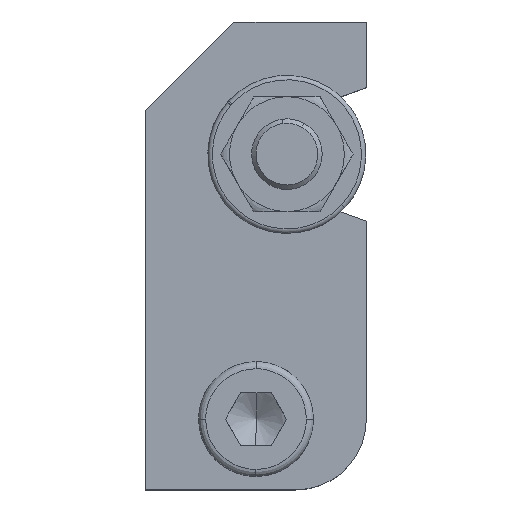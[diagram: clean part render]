
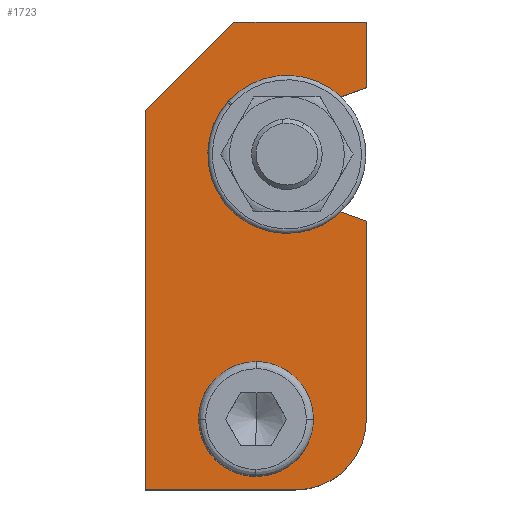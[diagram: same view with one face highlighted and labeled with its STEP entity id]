
A CAD part, top view. The second image highlights one B-rep face of the part: STEP entity #1723.
In plain terms, the highlighted planar face has unit normal (0, 0, 1).
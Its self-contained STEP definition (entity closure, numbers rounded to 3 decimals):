
#1393=CARTESIAN_POINT('Vertex',(-3.642,1.99,12.)) ;
#1407=CARTESIAN_POINT('Vertex',(3.642,-1.99,12.)) ;
#1410=CARTESIAN_POINT('Axis2P3D Location',(0.,0.,12.)) ;
#1432=CARTESIAN_POINT('Axis2P3D Location',(0.,0.,12.)) ;
#1584=CARTESIAN_POINT('Axis2P3D Location',(0.,0.,12.)) ;
#1589=CARTESIAN_POINT('Line Origine',(-12.5,13.5,12.)) ;
#1593=CARTESIAN_POINT('Vertex',(-12.5,35.,12.)) ;
#1595=CARTESIAN_POINT('Vertex',(-12.5,-8.,12.)) ;
#1598=CARTESIAN_POINT('Line Origine',(-4.,-8.,12.)) ;
#1602=CARTESIAN_POINT('Vertex',(4.5,-8.,12.)) ;
#1605=CARTESIAN_POINT('Axis2P3D Location',(4.5,0.,12.)) ;
#1609=CARTESIAN_POINT('Vertex',(12.5,0.,12.)) ;
#1612=CARTESIAN_POINT('Line Origine',(12.5,11.215,12.)) ;
#1616=CARTESIAN_POINT('Vertex',(12.5,22.43,12.)) ;
#1619=CARTESIAN_POINT('Line Origine',(10.,23.34,12.)) ;
#1623=CARTESIAN_POINT('Vertex',(7.5,24.25,12.)) ;
#1626=CARTESIAN_POINT('Line Origine',(5.5,24.25,12.)) ;
#1630=CARTESIAN_POINT('Vertex',(3.5,24.25,12.)) ;
#1634=CARTESIAN_POINT('Control Point',(3.5,24.25,12.)) ;
#1635=CARTESIAN_POINT('Control Point',(2.913,24.25,12.)) ;
#1636=CARTESIAN_POINT('Control Point',(2.325,24.325,12.)) ;
#1637=CARTESIAN_POINT('Control Point',(1.751,24.475,12.)) ;
#1638=CARTESIAN_POINT('Control Point',(0.653,24.918,12.)) ;
#1639=CARTESIAN_POINT('Control Point',(-0.299,25.623,12.)) ;
#1640=CARTESIAN_POINT('Control Point',(-0.727,26.035,12.)) ;
#1641=CARTESIAN_POINT('Control Point',(-1.468,26.959,12.)) ;
#1642=CARTESIAN_POINT('Control Point',(-1.953,28.039,12.)) ;
#1643=CARTESIAN_POINT('Control Point',(-2.126,28.607,12.)) ;
#1644=CARTESIAN_POINT('Control Point',(-2.321,29.776,12.)) ;
#1645=CARTESIAN_POINT('Control Point',(-2.216,30.955,12.)) ;
#1646=CARTESIAN_POINT('Control Point',(-2.088,31.535,12.)) ;
#1647=CARTESIAN_POINT('Control Point',(-1.877,32.123,12.)) ;
#1648=CARTESIAN_POINT('Control Point',(-1.591,32.672,12.)) ;
#1649=CARTESIAN_POINT('Control Point',(-1.577,32.7,12.)) ;
#1650=CARTESIAN_POINT('Control Point',(-1.561,32.729,12.)) ;
#1651=CARTESIAN_POINT('Control Point',(-1.546,32.757,12.)) ;
#1652=CARTESIAN_POINT('Vertex',(-1.546,32.757,12.)) ;
#1656=CARTESIAN_POINT('Control Point',(-1.546,32.757,12.)) ;
#1657=CARTESIAN_POINT('Control Point',(-1.265,33.272,12.)) ;
#1658=CARTESIAN_POINT('Control Point',(-0.917,33.752,12.)) ;
#1659=CARTESIAN_POINT('Control Point',(-0.51,34.184,12.)) ;
#1660=CARTESIAN_POINT('Control Point',(0.406,34.935,12.)) ;
#1661=CARTESIAN_POINT('Control Point',(1.481,35.432,12.)) ;
#1662=CARTESIAN_POINT('Control Point',(2.047,35.61,12.)) ;
#1663=CARTESIAN_POINT('Control Point',(2.686,35.724,12.)) ;
#1664=CARTESIAN_POINT('Control Point',(3.33,35.748,12.)) ;
#1665=CARTESIAN_POINT('Control Point',(3.387,35.749,12.)) ;
#1666=CARTESIAN_POINT('Control Point',(3.443,35.75,12.)) ;
#1667=CARTESIAN_POINT('Control Point',(3.5,35.75,12.)) ;
#1668=CARTESIAN_POINT('Vertex',(3.5,35.75,12.)) ;
#1671=CARTESIAN_POINT('Line Origine',(5.5,35.75,12.)) ;
#1675=CARTESIAN_POINT('Vertex',(7.5,35.75,12.)) ;
#1678=CARTESIAN_POINT('Line Origine',(10.,36.66,12.)) ;
#1682=CARTESIAN_POINT('Vertex',(12.5,37.57,12.)) ;
#1685=CARTESIAN_POINT('Line Origine',(12.5,41.285,12.)) ;
#1689=CARTESIAN_POINT('Vertex',(12.5,45.,12.)) ;
#1692=CARTESIAN_POINT('Line Origine',(5.,45.,12.)) ;
#1696=CARTESIAN_POINT('Vertex',(-2.5,45.,12.)) ;
#1699=CARTESIAN_POINT('Line Origine',(-7.5,40.,12.)) ;
#1411=DIRECTION('Axis2P3D Direction',(0.,0.,-1.)) ;
#1433=DIRECTION('Axis2P3D Direction',(0.,-0.,-1.)) ;
#1585=DIRECTION('Axis2P3D Direction',(0.,0.,1.)) ;
#1586=DIRECTION('Axis2P3D XDirection',(1.,0.,0.)) ;
#1590=DIRECTION('Vector Direction',(0.,1.,0.)) ;
#1599=DIRECTION('Vector Direction',(-1.,0.,0.)) ;
#1606=DIRECTION('Axis2P3D Direction',(0.,0.,1.)) ;
#1613=DIRECTION('Vector Direction',(0.,-1.,0.)) ;
#1620=DIRECTION('Vector Direction',(0.94,-0.342,0.)) ;
#1627=DIRECTION('Vector Direction',(-1.,0.,0.)) ;
#1672=DIRECTION('Vector Direction',(1.,0.,0.)) ;
#1679=DIRECTION('Vector Direction',(0.94,0.342,0.)) ;
#1686=DIRECTION('Vector Direction',(0.,-1.,0.)) ;
#1693=DIRECTION('Vector Direction',(1.,0.,0.)) ;
#1700=DIRECTION('Vector Direction',(0.707,0.707,0.)) ;
#1412=AXIS2_PLACEMENT_3D('Circle Axis2P3D',#1410,#1411,$) ;
#1434=AXIS2_PLACEMENT_3D('Circle Axis2P3D',#1432,#1433,$) ;
#1587=AXIS2_PLACEMENT_3D('Plane Axis2P3D',#1584,#1585,#1586) ;
#1607=AXIS2_PLACEMENT_3D('Circle Axis2P3D',#1605,#1606,$) ;
#1705=ORIENTED_EDGE('',*,*,#1597,.T.) ;
#1706=ORIENTED_EDGE('',*,*,#1604,.T.) ;
#1707=ORIENTED_EDGE('',*,*,#1611,.F.) ;
#1708=ORIENTED_EDGE('',*,*,#1618,.T.) ;
#1709=ORIENTED_EDGE('',*,*,#1625,.F.) ;
#1710=ORIENTED_EDGE('',*,*,#1632,.F.) ;
#1711=ORIENTED_EDGE('',*,*,#1654,.F.) ;
#1712=ORIENTED_EDGE('',*,*,#1670,.F.) ;
#1713=ORIENTED_EDGE('',*,*,#1677,.F.) ;
#1714=ORIENTED_EDGE('',*,*,#1684,.F.) ;
#1715=ORIENTED_EDGE('',*,*,#1691,.T.) ;
#1716=ORIENTED_EDGE('',*,*,#1698,.T.) ;
#1717=ORIENTED_EDGE('',*,*,#1703,.F.) ;
#1720=ORIENTED_EDGE('',*,*,#1436,.F.) ;
#1721=ORIENTED_EDGE('',*,*,#1414,.F.) ;
#1722=FACE_BOUND('',#1719,.T.) ;
#1591=VECTOR('Line Direction',#1590,1.) ;
#1600=VECTOR('Line Direction',#1599,1.) ;
#1614=VECTOR('Line Direction',#1613,1.) ;
#1621=VECTOR('Line Direction',#1620,1.) ;
#1628=VECTOR('Line Direction',#1627,1.) ;
#1673=VECTOR('Line Direction',#1672,1.) ;
#1680=VECTOR('Line Direction',#1679,1.) ;
#1687=VECTOR('Line Direction',#1686,1.) ;
#1694=VECTOR('Line Direction',#1693,1.) ;
#1701=VECTOR('Line Direction',#1700,1.) ;
#1723=ADVANCED_FACE('PartBody',(#1718,#1722),#1588,.T.) ;
#1633=B_SPLINE_CURVE_WITH_KNOTS('',5,(#1634,#1635,#1636,#1637,#1638,#1639,#1640,#1641,#1642,#1643,#1644,#1645,#1646,#1647,#1648,#1649,#1650,#1651),.UNSPECIFIED.,.F.,.U.,(6,3,3,3,3,6),(0.,4.164,8.329,12.493,16.657,16.884),.UNSPECIFIED.) ;
#1655=B_SPLINE_CURVE_WITH_KNOTS('',5,(#1656,#1657,#1658,#1659,#1660,#1661,#1662,#1663,#1664,#1665,#1666,#1667),.UNSPECIFIED.,.F.,.U.,(6,3,3,6),(0.,4.164,8.328,8.73),.UNSPECIFIED.) ;
#1413=CIRCLE('generated circle',#1412,4.15) ;
#1435=CIRCLE('generated circle',#1434,4.15) ;
#1608=CIRCLE('generated circle',#1607,8.) ;
#1414=EDGE_CURVE('',#1408,#1394,#1413,.F.) ;
#1436=EDGE_CURVE('',#1394,#1408,#1435,.F.) ;
#1597=EDGE_CURVE('',#1594,#1596,#1592,.F.) ;
#1604=EDGE_CURVE('',#1596,#1603,#1601,.F.) ;
#1611=EDGE_CURVE('',#1610,#1603,#1608,.F.) ;
#1618=EDGE_CURVE('',#1610,#1617,#1615,.F.) ;
#1625=EDGE_CURVE('',#1624,#1617,#1622,.T.) ;
#1632=EDGE_CURVE('',#1631,#1624,#1629,.F.) ;
#1654=EDGE_CURVE('',#1653,#1631,#1633,.F.) ;
#1670=EDGE_CURVE('',#1669,#1653,#1655,.F.) ;
#1677=EDGE_CURVE('',#1676,#1669,#1674,.F.) ;
#1684=EDGE_CURVE('',#1683,#1676,#1681,.F.) ;
#1691=EDGE_CURVE('',#1683,#1690,#1688,.F.) ;
#1698=EDGE_CURVE('',#1690,#1697,#1695,.F.) ;
#1703=EDGE_CURVE('',#1594,#1697,#1702,.T.) ;
#1704=EDGE_LOOP('',(#1705,#1706,#1707,#1708,#1709,#1710,#1711,#1712,#1713,#1714,#1715,#1716,#1717)) ;
#1719=EDGE_LOOP('',(#1720,#1721)) ;
#1718=FACE_OUTER_BOUND('',#1704,.T.) ;
#1592=LINE('Line',#1589,#1591) ;
#1601=LINE('Line',#1598,#1600) ;
#1615=LINE('Line',#1612,#1614) ;
#1622=LINE('Line',#1619,#1621) ;
#1629=LINE('Line',#1626,#1628) ;
#1674=LINE('Line',#1671,#1673) ;
#1681=LINE('Line',#1678,#1680) ;
#1688=LINE('Line',#1685,#1687) ;
#1695=LINE('Line',#1692,#1694) ;
#1702=LINE('Line',#1699,#1701) ;
#1588=PLANE('Plane',#1587) ;
#1394=VERTEX_POINT('',#1393) ;
#1408=VERTEX_POINT('',#1407) ;
#1594=VERTEX_POINT('',#1593) ;
#1596=VERTEX_POINT('',#1595) ;
#1603=VERTEX_POINT('',#1602) ;
#1610=VERTEX_POINT('',#1609) ;
#1617=VERTEX_POINT('',#1616) ;
#1624=VERTEX_POINT('',#1623) ;
#1631=VERTEX_POINT('',#1630) ;
#1653=VERTEX_POINT('',#1652) ;
#1669=VERTEX_POINT('',#1668) ;
#1676=VERTEX_POINT('',#1675) ;
#1683=VERTEX_POINT('',#1682) ;
#1690=VERTEX_POINT('',#1689) ;
#1697=VERTEX_POINT('',#1696) ;
